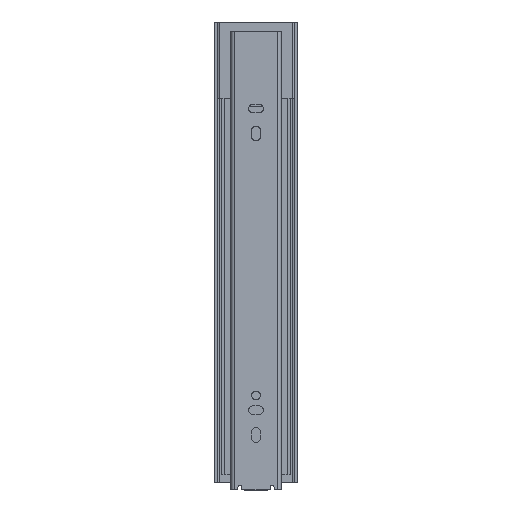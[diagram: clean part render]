
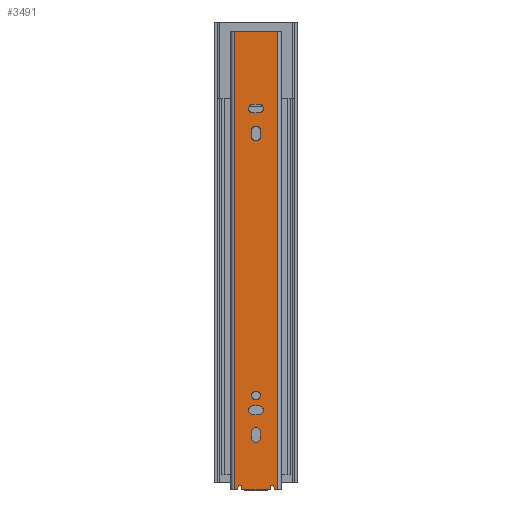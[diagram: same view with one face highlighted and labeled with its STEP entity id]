
A CAD part, top view. The second image highlights one B-rep face of the part: STEP entity #3491.
In plain terms, the highlighted planar face has unit normal (0, 0, 1).
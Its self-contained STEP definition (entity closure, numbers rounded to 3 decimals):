
#2489=DIRECTION('',(-1.,0.,0.));
#2490=VECTOR('',#2489,18.);
#2491=CARTESIAN_POINT('',(9.,0.,0.));
#2492=LINE('',#2491,#2490);
#2506=DIRECTION('',(-1.,0.,0.));
#2507=VECTOR('',#2506,0.921);
#2508=CARTESIAN_POINT('',(-12.799,0.,0.));
#2509=LINE('',#2508,#2507);
#2548=DIRECTION('',(-1.,0.,0.));
#2549=VECTOR('',#2548,0.921);
#2550=CARTESIAN_POINT('',(13.72,0.,0.));
#2551=LINE('',#2550,#2549);
#2591=CARTESIAN_POINT('',(0.,60.2,0.));
#2592=DIRECTION('',(0.,0.,1.));
#2593=DIRECTION('',(0.,1.,0.));
#2594=AXIS2_PLACEMENT_3D('',#2591,#2592,#2593);
#2596=CARTESIAN_POINT('',(0.,60.2,0.));
#2597=DIRECTION('',(0.,0.,1.));
#2598=DIRECTION('',(0.,-1.,0.));
#2599=AXIS2_PLACEMENT_3D('',#2596,#2597,#2598);
#2601=CARTESIAN_POINT('',(0.,33.,0.));
#2602=DIRECTION('',(0.,0.,1.));
#2603=DIRECTION('',(-1.,0.,0.));
#2604=AXIS2_PLACEMENT_3D('',#2601,#2602,#2603);
#2606=DIRECTION('',(0.,1.,0.));
#2607=VECTOR('',#2606,4.);
#2608=CARTESIAN_POINT('',(2.75,33.,0.));
#2609=LINE('',#2608,#2607);
#2610=CARTESIAN_POINT('',(0.,37.,0.));
#2611=DIRECTION('',(0.,0.,1.));
#2612=DIRECTION('',(1.,0.,0.));
#2613=AXIS2_PLACEMENT_3D('',#2610,#2611,#2612);
#2615=DIRECTION('',(0.,-1.,0.));
#2616=VECTOR('',#2615,4.);
#2617=CARTESIAN_POINT('',(-2.75,37.,0.));
#2618=LINE('',#2617,#2616);
#2619=DIRECTION('',(1.,0.,0.));
#2620=VECTOR('',#2619,4.);
#2621=CARTESIAN_POINT('',(-2.,48.05,0.));
#2622=LINE('',#2621,#2620);
#2623=CARTESIAN_POINT('',(2.,50.8,0.));
#2624=DIRECTION('',(0.,0.,1.));
#2625=DIRECTION('',(0.,-1.,0.));
#2626=AXIS2_PLACEMENT_3D('',#2623,#2624,#2625);
#2628=DIRECTION('',(-1.,0.,0.));
#2629=VECTOR('',#2628,4.);
#2630=CARTESIAN_POINT('',(2.,53.55,0.));
#2631=LINE('',#2630,#2629);
#2632=CARTESIAN_POINT('',(-2.,50.8,0.));
#2633=DIRECTION('',(0.,0.,1.));
#2634=DIRECTION('',(0.,1.,0.));
#2635=AXIS2_PLACEMENT_3D('',#2632,#2633,#2634);
#2637=CARTESIAN_POINT('',(0.,225.,0.));
#2638=DIRECTION('',(0.,0.,1.));
#2639=DIRECTION('',(-1.,0.,0.));
#2640=AXIS2_PLACEMENT_3D('',#2637,#2638,#2639);
#2642=DIRECTION('',(0.,1.,0.));
#2643=VECTOR('',#2642,4.);
#2644=CARTESIAN_POINT('',(2.75,225.,0.));
#2645=LINE('',#2644,#2643);
#2646=CARTESIAN_POINT('',(0.,229.,0.));
#2647=DIRECTION('',(0.,0.,1.));
#2648=DIRECTION('',(1.,0.,0.));
#2649=AXIS2_PLACEMENT_3D('',#2646,#2647,#2648);
#2651=DIRECTION('',(0.,-1.,0.));
#2652=VECTOR('',#2651,4.);
#2653=CARTESIAN_POINT('',(-2.75,229.,0.));
#2654=LINE('',#2653,#2652);
#2655=DIRECTION('',(1.,0.,0.));
#2656=VECTOR('',#2655,4.);
#2657=CARTESIAN_POINT('',(-2.,240.05,0.));
#2658=LINE('',#2657,#2656);
#2659=CARTESIAN_POINT('',(2.,242.8,0.));
#2660=DIRECTION('',(0.,0.,1.));
#2661=DIRECTION('',(0.,-1.,0.));
#2662=AXIS2_PLACEMENT_3D('',#2659,#2660,#2661);
#2664=DIRECTION('',(-1.,0.,0.));
#2665=VECTOR('',#2664,4.);
#2666=CARTESIAN_POINT('',(2.,245.55,0.));
#2667=LINE('',#2666,#2665);
#2668=CARTESIAN_POINT('',(-2.,242.8,0.));
#2669=DIRECTION('',(0.,0.,1.));
#2670=DIRECTION('',(0.,1.,0.));
#2671=AXIS2_PLACEMENT_3D('',#2668,#2669,#2670);
#2673=DIRECTION('',(0.,1.,0.));
#2674=VECTOR('',#2673,1.88);
#2675=CARTESIAN_POINT('',(-9.,0.,0.));
#2676=LINE('',#2675,#2674);
#2677=CARTESIAN_POINT('',(-10.2,1.88,0.));
#2678=DIRECTION('',(0.,0.,1.));
#2679=DIRECTION('',(1.,0.,0.));
#2680=AXIS2_PLACEMENT_3D('',#2677,#2678,#2679);
#2682=DIRECTION('',(-0.309,-0.951,0.));
#2683=VECTOR('',#2682,1.64);
#2684=CARTESIAN_POINT('',(-11.341,2.251,0.));
#2685=LINE('',#2684,#2683);
#2686=CARTESIAN_POINT('',(-12.799,1.,0.));
#2687=DIRECTION('',(0.,0.,1.));
#2688=DIRECTION('',(0.,-1.,0.));
#2689=AXIS2_PLACEMENT_3D('',#2686,#2687,#2688);
#2691=DIRECTION('',(0.,1.,0.));
#2692=VECTOR('',#2691,292.);
#2693=CARTESIAN_POINT('',(13.72,0.,0.));
#2694=LINE('',#2693,#2692);
#2695=CARTESIAN_POINT('',(12.799,1.,0.));
#2696=DIRECTION('',(0.,0.,1.));
#2697=DIRECTION('',(-0.951,-0.309,0.));
#2698=AXIS2_PLACEMENT_3D('',#2695,#2696,#2697);
#2700=DIRECTION('',(-0.309,0.951,0.));
#2701=VECTOR('',#2700,1.64);
#2702=CARTESIAN_POINT('',(11.848,0.691,0.));
#2703=LINE('',#2702,#2701);
#2704=CARTESIAN_POINT('',(10.2,1.88,0.));
#2705=DIRECTION('',(0.,0.,1.));
#2706=DIRECTION('',(0.951,0.309,0.));
#2707=AXIS2_PLACEMENT_3D('',#2704,#2705,#2706);
#2709=DIRECTION('',(0.,1.,0.));
#2710=VECTOR('',#2709,1.88);
#2711=CARTESIAN_POINT('',(9.,0.,0.));
#2712=LINE('',#2711,#2710);
#2980=DIRECTION('',(-1.,0.,0.));
#2981=VECTOR('',#2980,27.44);
#2982=CARTESIAN_POINT('',(13.72,292.,0.));
#2983=LINE('',#2982,#2981);
#3019=DIRECTION('',(0.,1.,0.));
#3020=VECTOR('',#3019,292.);
#3021=CARTESIAN_POINT('',(-13.72,0.,0.));
#3022=LINE('',#3021,#3020);
#3104=CARTESIAN_POINT('',(13.72,0.,0.));
#3106=VERTEX_POINT('',#3104);
#3107=CARTESIAN_POINT('',(-13.72,0.,0.));
#3109=VERTEX_POINT('',#3107);
#3120=CARTESIAN_POINT('',(13.72,292.,0.));
#3122=VERTEX_POINT('',#3120);
#3123=CARTESIAN_POINT('',(-13.72,292.,0.));
#3124=VERTEX_POINT('',#3123);
#3135=CARTESIAN_POINT('',(0.,62.95,0.));
#3136=CARTESIAN_POINT('',(0.,57.45,0.));
#3137=VERTEX_POINT('',#3135);
#3138=VERTEX_POINT('',#3136);
#3139=CARTESIAN_POINT('',(-2.75,33.,0.));
#3140=CARTESIAN_POINT('',(2.75,33.,0.));
#3141=VERTEX_POINT('',#3139);
#3142=VERTEX_POINT('',#3140);
#3143=CARTESIAN_POINT('',(2.75,37.,0.));
#3144=VERTEX_POINT('',#3143);
#3145=CARTESIAN_POINT('',(-2.75,37.,0.));
#3146=VERTEX_POINT('',#3145);
#3147=CARTESIAN_POINT('',(-2.,48.05,0.));
#3148=CARTESIAN_POINT('',(2.,48.05,0.));
#3149=VERTEX_POINT('',#3147);
#3150=VERTEX_POINT('',#3148);
#3151=CARTESIAN_POINT('',(2.,53.55,0.));
#3152=VERTEX_POINT('',#3151);
#3153=CARTESIAN_POINT('',(-2.,53.55,0.));
#3154=VERTEX_POINT('',#3153);
#3155=CARTESIAN_POINT('',(-2.75,225.,0.));
#3156=CARTESIAN_POINT('',(2.75,225.,0.));
#3157=VERTEX_POINT('',#3155);
#3158=VERTEX_POINT('',#3156);
#3159=CARTESIAN_POINT('',(2.75,229.,0.));
#3160=VERTEX_POINT('',#3159);
#3161=CARTESIAN_POINT('',(-2.75,229.,0.));
#3162=VERTEX_POINT('',#3161);
#3163=CARTESIAN_POINT('',(-2.,240.05,0.));
#3164=CARTESIAN_POINT('',(2.,240.05,0.));
#3165=VERTEX_POINT('',#3163);
#3166=VERTEX_POINT('',#3164);
#3167=CARTESIAN_POINT('',(2.,245.55,0.));
#3168=VERTEX_POINT('',#3167);
#3169=CARTESIAN_POINT('',(-2.,245.55,0.));
#3170=VERTEX_POINT('',#3169);
#3208=CARTESIAN_POINT('',(-12.799,0.,0.));
#3210=VERTEX_POINT('',#3208);
#3212=CARTESIAN_POINT('',(12.799,0.,0.));
#3214=VERTEX_POINT('',#3212);
#3215=CARTESIAN_POINT('',(-9.,0.,0.));
#3216=CARTESIAN_POINT('',(-9.,1.88,0.));
#3217=VERTEX_POINT('',#3215);
#3218=VERTEX_POINT('',#3216);
#3219=CARTESIAN_POINT('',(-11.341,2.251,0.));
#3220=VERTEX_POINT('',#3219);
#3221=CARTESIAN_POINT('',(-11.848,0.691,0.));
#3222=VERTEX_POINT('',#3221);
#3223=CARTESIAN_POINT('',(11.848,0.691,0.));
#3224=VERTEX_POINT('',#3223);
#3225=CARTESIAN_POINT('',(11.341,2.251,0.));
#3226=VERTEX_POINT('',#3225);
#3227=CARTESIAN_POINT('',(9.,1.88,0.));
#3228=VERTEX_POINT('',#3227);
#3229=CARTESIAN_POINT('',(9.,0.,0.));
#3230=VERTEX_POINT('',#3229);
#3414=CARTESIAN_POINT('',(13.72,0.,0.));
#3415=DIRECTION('',(0.,0.,1.));
#3416=DIRECTION('',(-1.,0.,0.));
#3417=AXIS2_PLACEMENT_3D('',#3414,#3415,#3416);
#3418=PLANE('',#3417);
#3420=ORIENTED_EDGE('',*,*,#3419,.T.);
#3422=ORIENTED_EDGE('',*,*,#3421,.T.);
#3424=ORIENTED_EDGE('',*,*,#3423,.T.);
#3426=ORIENTED_EDGE('',*,*,#3425,.F.);
#3427=ORIENTED_EDGE('',*,*,#3326,.T.);
#3429=ORIENTED_EDGE('',*,*,#3428,.T.);
#3431=ORIENTED_EDGE('',*,*,#3430,.F.);
#3433=ORIENTED_EDGE('',*,*,#3432,.F.);
#3434=ORIENTED_EDGE('',*,*,#3354,.T.);
#3436=ORIENTED_EDGE('',*,*,#3435,.F.);
#3438=ORIENTED_EDGE('',*,*,#3437,.T.);
#3440=ORIENTED_EDGE('',*,*,#3439,.T.);
#3441=ORIENTED_EDGE('',*,*,#3404,.F.);
#3442=ORIENTED_EDGE('',*,*,#3308,.T.);
#3443=EDGE_LOOP('',(#3420,#3422,#3424,#3426,#3427,#3429,#3431,#3433,#3434,#3436,
#3438,#3440,#3441,#3442));
#3444=FACE_OUTER_BOUND('',#3443,.F.);
#3446=ORIENTED_EDGE('',*,*,#3445,.T.);
#3448=ORIENTED_EDGE('',*,*,#3447,.T.);
#3450=ORIENTED_EDGE('',*,*,#3449,.T.);
#3452=ORIENTED_EDGE('',*,*,#3451,.T.);
#3453=EDGE_LOOP('',(#3446,#3448,#3450,#3452));
#3454=FACE_BOUND('',#3453,.F.);
#3456=ORIENTED_EDGE('',*,*,#3455,.T.);
#3458=ORIENTED_EDGE('',*,*,#3457,.T.);
#3460=ORIENTED_EDGE('',*,*,#3459,.T.);
#3462=ORIENTED_EDGE('',*,*,#3461,.T.);
#3463=EDGE_LOOP('',(#3456,#3458,#3460,#3462));
#3464=FACE_BOUND('',#3463,.F.);
#3466=ORIENTED_EDGE('',*,*,#3465,.T.);
#3468=ORIENTED_EDGE('',*,*,#3467,.T.);
#3470=ORIENTED_EDGE('',*,*,#3469,.T.);
#3472=ORIENTED_EDGE('',*,*,#3471,.T.);
#3473=EDGE_LOOP('',(#3466,#3468,#3470,#3472));
#3474=FACE_BOUND('',#3473,.F.);
#3476=ORIENTED_EDGE('',*,*,#3475,.T.);
#3478=ORIENTED_EDGE('',*,*,#3477,.T.);
#3480=ORIENTED_EDGE('',*,*,#3479,.T.);
#3482=ORIENTED_EDGE('',*,*,#3481,.T.);
#3483=EDGE_LOOP('',(#3476,#3478,#3480,#3482));
#3484=FACE_BOUND('',#3483,.F.);
#3486=ORIENTED_EDGE('',*,*,#3485,.T.);
#3488=ORIENTED_EDGE('',*,*,#3487,.T.);
#3489=EDGE_LOOP('',(#3486,#3488));
#3490=FACE_BOUND('',#3489,.F.);
#3491=ADVANCED_FACE('',(#3444,#3454,#3464,#3474,#3484,#3490),#3418,.T.);
#2595=CIRCLE('',#2594,2.75);
#2600=CIRCLE('',#2599,2.75);
#2605=CIRCLE('',#2604,2.75);
#2614=CIRCLE('',#2613,2.75);
#2627=CIRCLE('',#2626,2.75);
#2636=CIRCLE('',#2635,2.75);
#2641=CIRCLE('',#2640,2.75);
#2650=CIRCLE('',#2649,2.75);
#2663=CIRCLE('',#2662,2.75);
#2672=CIRCLE('',#2671,2.75);
#2681=CIRCLE('',#2680,1.2);
#2690=CIRCLE('',#2689,1.);
#2699=CIRCLE('',#2698,1.);
#2708=CIRCLE('',#2707,1.2);
#3308=EDGE_CURVE('',#3230,#3217,#2492,.T.);
#3326=EDGE_CURVE('',#3210,#3109,#2509,.T.);
#3354=EDGE_CURVE('',#3106,#3214,#2551,.T.);
#3404=EDGE_CURVE('',#3230,#3228,#2712,.T.);
#3419=EDGE_CURVE('',#3217,#3218,#2676,.T.);
#3421=EDGE_CURVE('',#3218,#3220,#2681,.T.);
#3423=EDGE_CURVE('',#3220,#3222,#2685,.T.);
#3425=EDGE_CURVE('',#3210,#3222,#2690,.T.);
#3428=EDGE_CURVE('',#3109,#3124,#3022,.T.);
#3430=EDGE_CURVE('',#3122,#3124,#2983,.T.);
#3432=EDGE_CURVE('',#3106,#3122,#2694,.T.);
#3435=EDGE_CURVE('',#3224,#3214,#2699,.T.);
#3437=EDGE_CURVE('',#3224,#3226,#2703,.T.);
#3439=EDGE_CURVE('',#3226,#3228,#2708,.T.);
#3445=EDGE_CURVE('',#3141,#3142,#2605,.T.);
#3447=EDGE_CURVE('',#3142,#3144,#2609,.T.);
#3449=EDGE_CURVE('',#3144,#3146,#2614,.T.);
#3451=EDGE_CURVE('',#3146,#3141,#2618,.T.);
#3455=EDGE_CURVE('',#3149,#3150,#2622,.T.);
#3457=EDGE_CURVE('',#3150,#3152,#2627,.T.);
#3459=EDGE_CURVE('',#3152,#3154,#2631,.T.);
#3461=EDGE_CURVE('',#3154,#3149,#2636,.T.);
#3465=EDGE_CURVE('',#3157,#3158,#2641,.T.);
#3467=EDGE_CURVE('',#3158,#3160,#2645,.T.);
#3469=EDGE_CURVE('',#3160,#3162,#2650,.T.);
#3471=EDGE_CURVE('',#3162,#3157,#2654,.T.);
#3475=EDGE_CURVE('',#3165,#3166,#2658,.T.);
#3477=EDGE_CURVE('',#3166,#3168,#2663,.T.);
#3479=EDGE_CURVE('',#3168,#3170,#2667,.T.);
#3481=EDGE_CURVE('',#3170,#3165,#2672,.T.);
#3485=EDGE_CURVE('',#3137,#3138,#2595,.T.);
#3487=EDGE_CURVE('',#3138,#3137,#2600,.T.);
